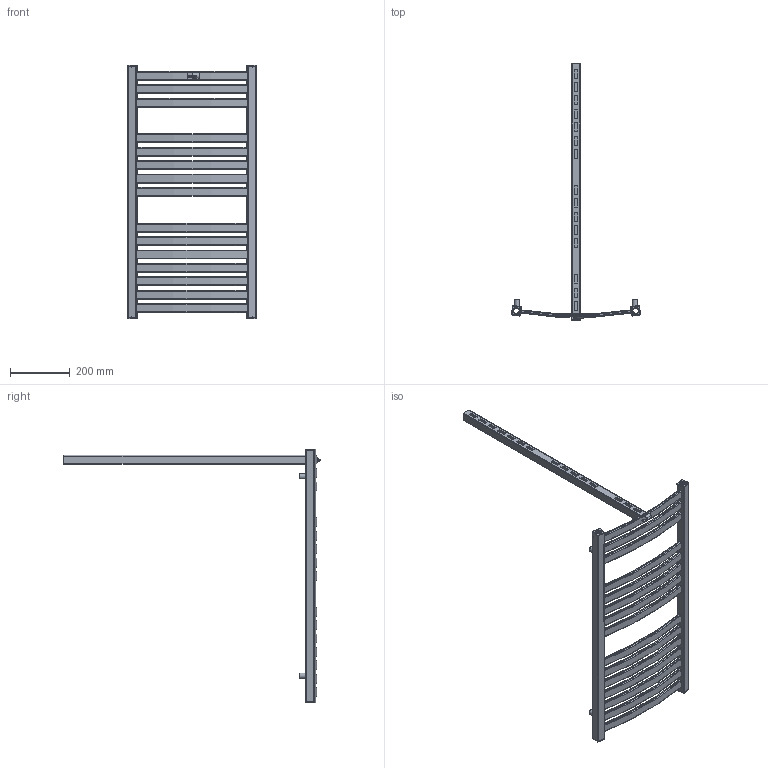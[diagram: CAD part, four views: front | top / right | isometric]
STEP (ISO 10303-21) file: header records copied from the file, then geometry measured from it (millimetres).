
FILE_DESCRIPTION( ( 'Unknown' ), '1' );
FILE_NAME( 'D:/Alplast sp. j/Witryna zespoBu - Projekty/Archiwum/Grzejniki Archiwum/Projekty/STANDARD/AK-EL/AK3-400EL.stp', 'Unknown', ( 'Unknown' ), ( 'Unknown' ), 'PSStep 10.1', 'Unknown', ' ' );
FILE_SCHEMA( ( 'AUTOMOTIVE_DESIGN { 1 0 10303 214 1 1 1 1 }' ) );
Length unit declared in the file: millimetre
Products named in the file (5): Assem1; kana³  poziomy lukowy L-400; zaslepka kwadrat otwor; tulejka kat 12stopni; AK3-EPEL
Bounding box: 433.75 x 861 x 850 mm (x, y, z)
Volume: 1058623.6 mm3; surface area: 1419870.1 mm2
Topology: 29 solids, 29 shells, 842 faces, 2342 edges, 1568 vertices
Faces by surface type: plane 376, cylinder 328, torus 138
Full cylindrical faces by diameter (mm): 16 x5, 18 x5, 18.631 x5, 23 x5
Entity records: 7792 total; most frequent: DIRECTION 1136, CARTESIAN_POINT 1078, ORIENTED_EDGE 1036, EDGE_CURVE 518, AXIS2_PLACEMENT_3D 408, VERTEX_POINT 350, LINE 320, VECTOR 320
